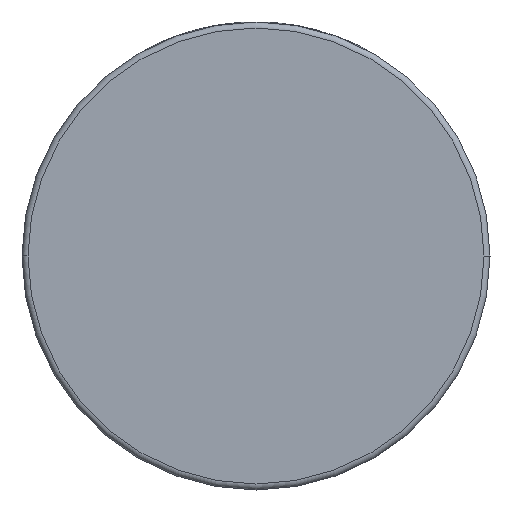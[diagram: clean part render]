
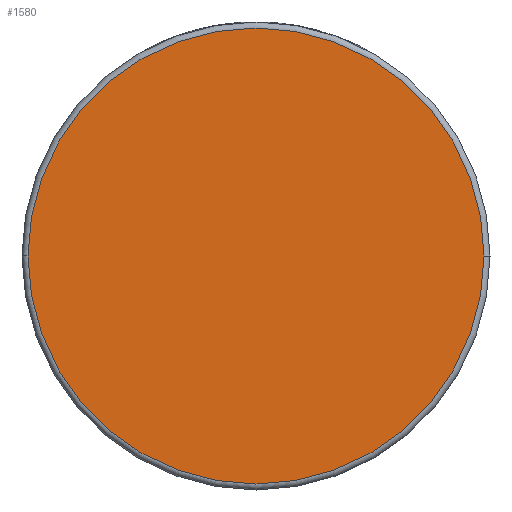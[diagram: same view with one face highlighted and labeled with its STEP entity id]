
A CAD part, front view. The second image highlights one B-rep face of the part: STEP entity #1580.
In plain terms, the highlighted planar face has unit normal (0, -1, 0).
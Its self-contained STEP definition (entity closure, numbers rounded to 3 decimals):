
#118 = CIRCLE ( 'NONE', #4076, 38. ) ;
#213 = PLANE ( 'NONE',  #1618 ) ;
#341 = DIRECTION ( 'NONE',  ( 1., 0., 0. ) ) ;
#717 = CARTESIAN_POINT ( 'NONE',  ( 0., -26.5, 0. ) ) ;
#1104 = EDGE_CURVE ( 'NONE', #3950, #3103, #1332, .T. ) ;
#1280 = CARTESIAN_POINT ( 'NONE',  ( 39., -26.5, 0. ) ) ;
#1332 = CIRCLE ( 'NONE', #4019, 38. ) ;
#1580 = ADVANCED_FACE ( 'NONE', ( #4301 ), #213, .T. ) ;
#1618 = AXIS2_PLACEMENT_3D ( 'NONE', #1280, #2277, #3629 ) ;
#1621 = CARTESIAN_POINT ( 'NONE',  ( 0., -26.5, 0. ) ) ;
#2065 = DIRECTION ( 'NONE',  ( 0., -1., 0. ) ) ;
#2277 = DIRECTION ( 'NONE',  ( 0., -1., 0. ) ) ;
#2580 = CARTESIAN_POINT ( 'NONE',  ( 38., -26.5, 0. ) ) ;
#2875 = ORIENTED_EDGE ( 'NONE', *, *, #1104, .T. ) ;
#3103 = VERTEX_POINT ( 'NONE', #2580 ) ;
#3356 = EDGE_CURVE ( 'NONE', #3103, #3950, #118, .T. ) ;
#3565 = ORIENTED_EDGE ( 'NONE', *, *, #3356, .T. ) ;
#3574 = DIRECTION ( 'NONE',  ( 1., 0., 0. ) ) ;
#3629 = DIRECTION ( 'NONE',  ( 1., 0., 0. ) ) ;
#3673 = CARTESIAN_POINT ( 'NONE',  ( -38., -26.5, 0. ) ) ;
#3950 = VERTEX_POINT ( 'NONE', #3673 ) ;
#4019 = AXIS2_PLACEMENT_3D ( 'NONE', #717, #2065, #341 ) ;
#4076 = AXIS2_PLACEMENT_3D ( 'NONE', #1621, #4310, #3574 ) ;
#4105 = EDGE_LOOP ( 'NONE', ( #3565, #2875 ) ) ;
#4301 = FACE_OUTER_BOUND ( 'NONE', #4105, .T. ) ;
#4310 = DIRECTION ( 'NONE',  ( 0., -1., 0. ) ) ;
